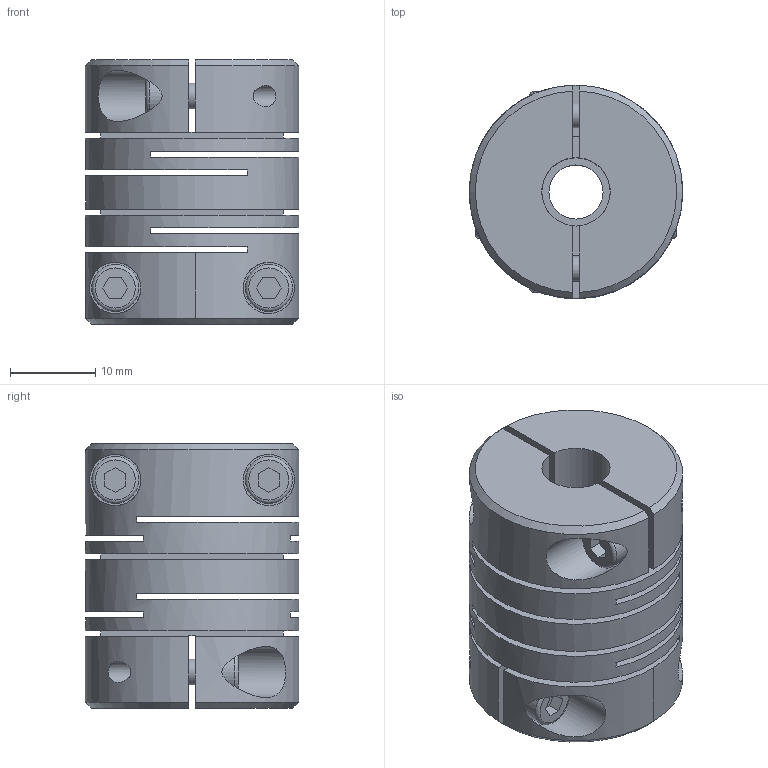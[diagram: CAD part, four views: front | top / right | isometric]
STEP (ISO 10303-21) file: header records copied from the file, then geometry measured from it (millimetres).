
FILE_DESCRIPTION (( 'STEP AP214' ), '1' );
FILE_NAME ('2246-25-B8-1_4-NI.step', '2022-05-27T09:31:03', ( '' ), ( '' ), 'SwSTEP 2.0', 'SolidWorks 2019', '' );
FILE_SCHEMA (( 'AUTOMOTIVE_DESIGN' ));
Length unit declared in the file: millimetre
Products named in the file (1): 2246-25-B8-1_4-NI
Bounding box: 25 x 24.99 x 31 mm (x, y, z)
Volume: 11630 mm3; surface area: 9555.1 mm2
Topology: 1 solids, 1 shells, 123 faces, 308 edges, 208 vertices
Faces by surface type: plane 79, cylinder 32, cone 8, torus 4
Full cylindrical faces by diameter (mm): 2.5 x4, 3 x4, 3.3 x4, 5.5 x4, 6 x4, 6.35 x3, 8 x3, 25 x1
Entity records: 4300 total; most frequent: CARTESIAN_POINT 975, DIRECTION 552, ORIENTED_EDGE 476, EDGE_CURVE 238, AXIS2_PLACEMENT_3D 207, EDGE_LOOP 200, VERTEX_POINT 178, FACE_OUTER_BOUND 153
